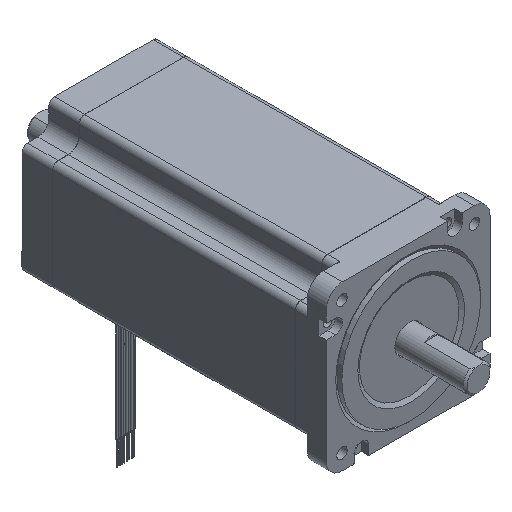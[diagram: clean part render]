
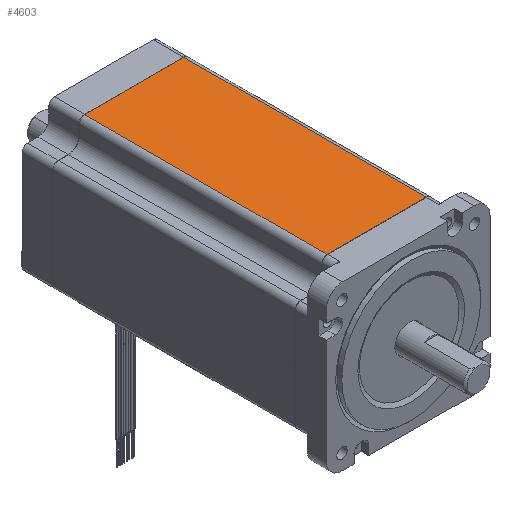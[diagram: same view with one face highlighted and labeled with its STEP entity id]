
A CAD part, isometric view. The second image highlights one B-rep face of the part: STEP entity #4603.
In plain terms, the highlighted planar face has unit normal (0, 0, 1).
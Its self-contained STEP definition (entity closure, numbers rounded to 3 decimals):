
#3437=CARTESIAN_POINT('',(26.1,-144.925,42.93));
#3438=VERTEX_POINT('',#3437);
#3446=CARTESIAN_POINT('',(-26.1,-144.925,42.93));
#3447=VERTEX_POINT('',#3446);
#3448=CARTESIAN_POINT('',(26.1,-144.925,42.93));
#3449=DIRECTION('',(-1.,0.,0.));
#3450=VECTOR('',#3449,52.2);
#3451=LINE('',#3448,#3450);
#3452=EDGE_CURVE('',#3438,#3447,#3451,.T.);
#4552=CARTESIAN_POINT('',(-26.1,-17.425,42.93));
#4553=VERTEX_POINT('',#4552);
#4554=CARTESIAN_POINT('',(-26.1,-17.425,42.93));
#4555=DIRECTION('',(0.,-1.,0.));
#4556=VECTOR('',#4555,127.5);
#4557=LINE('',#4554,#4556);
#4558=EDGE_CURVE('',#4553,#3447,#4557,.T.);
#4580=CARTESIAN_POINT('',(0.,-38.175,42.93));
#4581=DIRECTION('',(-1.,0.,0.));
#4582=DIRECTION('',(0.,0.,1.));
#4583=AXIS2_PLACEMENT_3D('',#4580,#4582,#4581);
#4584=PLANE('',#4583);
#4585=ORIENTED_EDGE('',*,*,#3452,.F.);
#4586=CARTESIAN_POINT('',(26.1,-17.425,42.93));
#4587=VERTEX_POINT('',#4586);
#4588=CARTESIAN_POINT('',(26.1,-17.425,42.93));
#4589=DIRECTION('',(0.,-1.,0.));
#4590=VECTOR('',#4589,127.5);
#4591=LINE('',#4588,#4590);
#4592=EDGE_CURVE('',#4587,#3438,#4591,.T.);
#4593=ORIENTED_EDGE('E769',*,*,#4592,.F.);
#4594=CARTESIAN_POINT('',(26.1,-17.425,42.93));
#4595=DIRECTION('',(-1.,0.,0.));
#4596=VECTOR('',#4595,52.2);
#4597=LINE('',#4594,#4596);
#4598=EDGE_CURVE('',#4587,#4553,#4597,.T.);
#4599=ORIENTED_EDGE('E353',*,*,#4598,.T.);
#4600=ORIENTED_EDGE('E353',*,*,#4558,.T.);
#4601=EDGE_LOOP('',(#4585,#4593,#4599,#4600));
#4602=FACE_OUTER_BOUND('',#4601,.T.);
#4603=ADVANCED_FACE('F383',(#4602),#4584,.T.);
